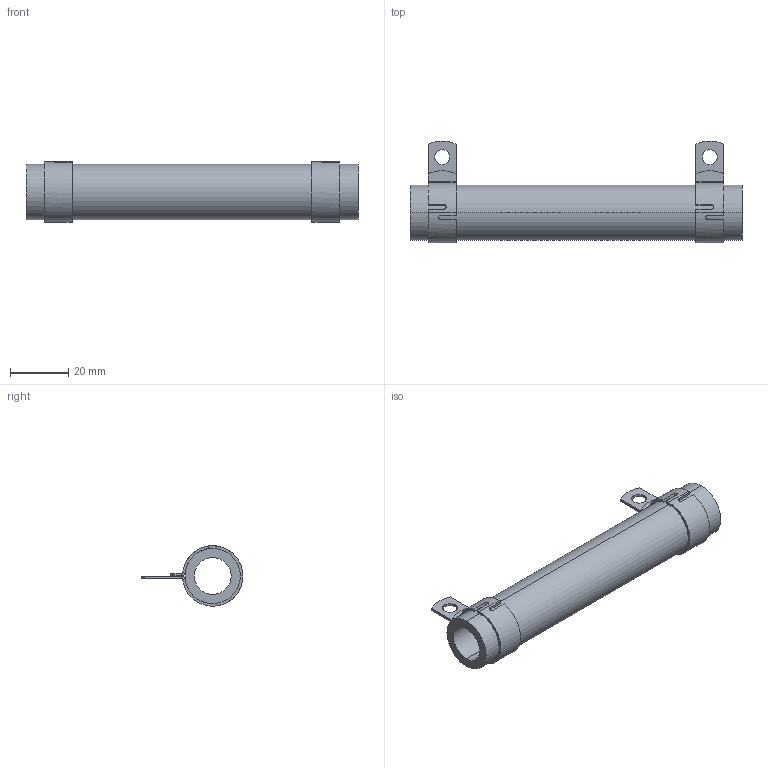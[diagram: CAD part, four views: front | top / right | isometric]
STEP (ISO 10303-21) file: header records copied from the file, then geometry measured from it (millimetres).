
FILE_DESCRIPTION (( 'STEP AP203' ), '1' );
FILE_NAME ('RBEF0120xxxxxKFB00.STEP', '2014-04-04T18:36:00', ( '' ), ( '' ), 'SwSTEP 2.0', 'SolidWorks 2012', '' );
FILE_SCHEMA (( 'CONFIG_CONTROL_DESIGN' ));
Length unit declared in the file: millimetre
Products named in the file (3): RBEF0120xxxxxKFB00; DAL15-160-XXX_DAL15-160-912-CLOSED; DAL013-04_DAL013-116
Assembly tree (3 placements, depth 2):
  RBEF0120xxxxxKFB00
    DAL013-04_DAL013-116
    DAL15-160-XXX_DAL15-160-912-CLOSED  x2
Bounding box: 114.3 x 35.06 x 20.83 mm (x, y, z)
Volume: 19377.3 mm3; surface area: 14976.4 mm2
Topology: 3 solids, 3 shells, 80 faces, 190 edges, 116 vertices
Faces by surface type: plane 42, cylinder 34, bspline 4
Entity records: 1706 total; most frequent: CARTESIAN_POINT 366, DIRECTION 229, ORIENTED_EDGE 202, EDGE_CURVE 101, AXIS2_PLACEMENT_3D 89, VERTEX_POINT 62, VECTOR 51, LINE 51
